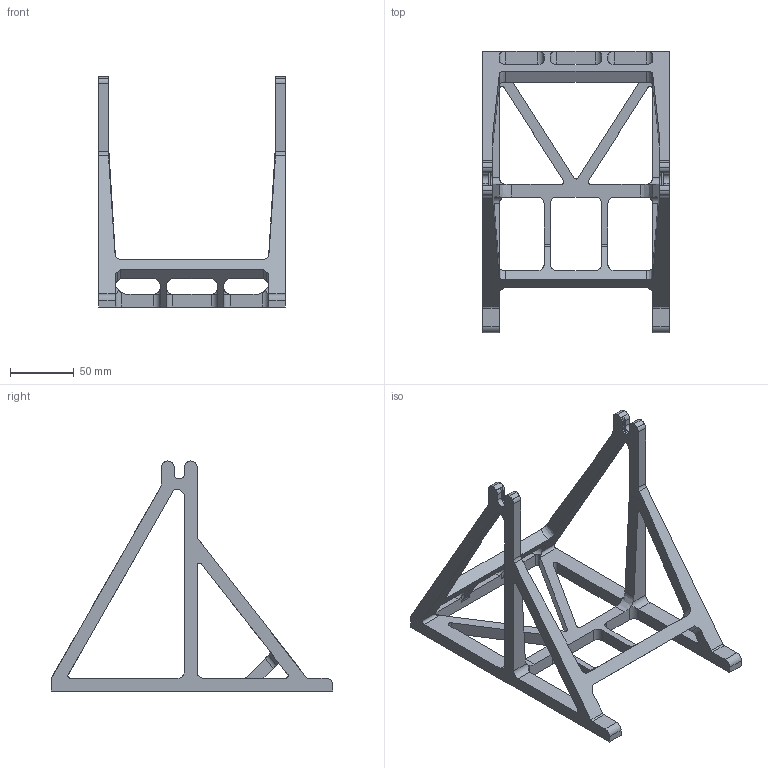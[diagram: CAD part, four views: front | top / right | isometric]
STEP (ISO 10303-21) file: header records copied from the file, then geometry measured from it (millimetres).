
FILE_DESCRIPTION (( 'STEP AP214' ), '1' );
FILE_NAME ('LargeStand_v3.2.STEP', '2019-04-10T20:27:19', ( '' ), ( '' ), 'SwSTEP 2.0', 'SolidWorks 2018', '' );
FILE_SCHEMA (( 'AUTOMOTIVE_DESIGN' ));
Length unit declared in the file: millimetre
Products named in the file (1): LargeStand_v3.2
Bounding box: 146 x 220 x 180 mm (x, y, z)
Volume: 234861 mm3; surface area: 89090.5 mm2
Topology: 1 solids, 1 shells, 202 faces, 643 edges, 424 vertices
Faces by surface type: plane 106, cylinder 86, bspline 6, cone 4
Entity records: 7884 total; most frequent: CARTESIAN_POINT 1958, ORIENTED_EDGE 1286, DIRECTION 1087, EDGE_CURVE 643, VERTEX_POINT 424, VECTOR 405, LINE 405, AXIS2_PLACEMENT_3D 341
